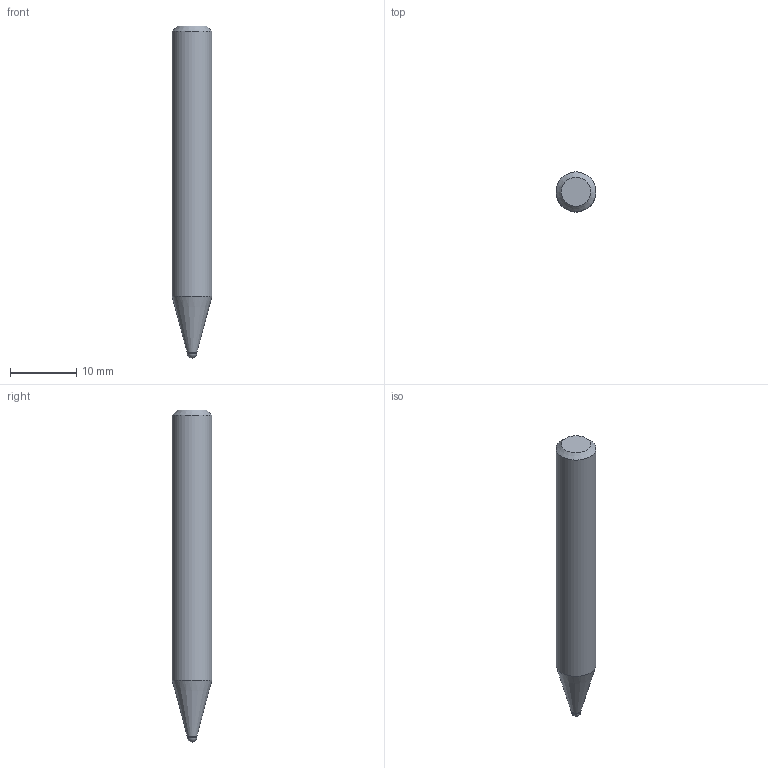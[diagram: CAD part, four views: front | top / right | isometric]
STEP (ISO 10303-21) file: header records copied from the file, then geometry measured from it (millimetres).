
FILE_DESCRIPTION((''),'2;1');
FILE_NAME('C:\Users\nsx150\AppData\Local\Temp\Mastercam 2021\8KJEN3TMUH\TEMP.step','2021-05-21T11:23:41',(''),(''),'STEP Write','Mastercam 2021 ... CNC Software, Inc.','');
FILE_SCHEMA(('AUTOMOTIVE_DESIGN'));
Length unit declared in the file: millimetre
Products named in the file (1): None
Bounding box: 6 x 6 x 50 mm (x, y, z)
Volume: 1250.4 mm3; surface area: 896 mm2
Topology: 2 solids, 2 shells, 8 faces, 12 edges, 7 vertices
Faces by surface type: plane 3, cylinder 2, cone 2, sphere 1
Full cylindrical faces by diameter (mm): 1.5 x1, 6 x1
Entity records: 190 total; most frequent: DIRECTION 32, CARTESIAN_POINT 22, AXIS2_PLACEMENT_3D 16, ORIENTED_EDGE 12, EDGE_LOOP 12, STYLED_ITEM 11, ADVANCED_FACE 8, VERTEX_POINT 6
